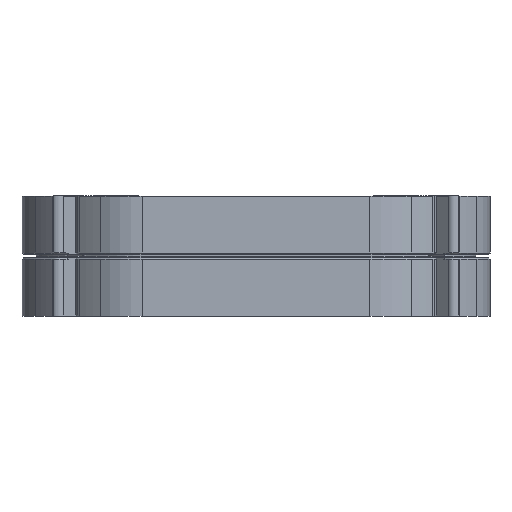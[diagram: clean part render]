
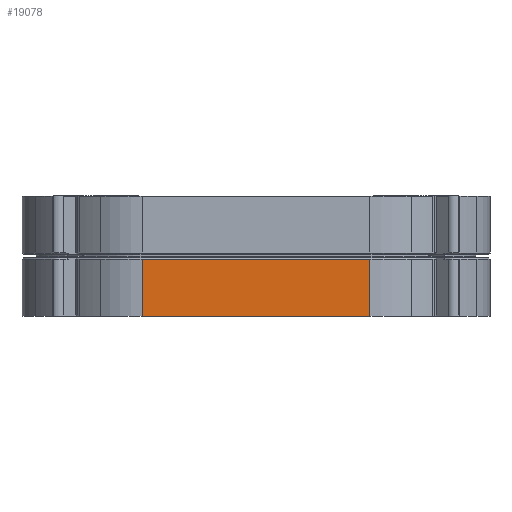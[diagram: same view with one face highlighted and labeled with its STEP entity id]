
A CAD part, left-side view. The second image highlights one B-rep face of the part: STEP entity #19078.
In plain terms, the highlighted planar face has unit normal (-1, 0, 0).
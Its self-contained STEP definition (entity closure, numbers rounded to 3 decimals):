
#1150=LINE('',#34885,#2083);
#1167=LINE('',#34944,#2100);
#1168=LINE('',#34948,#2101);
#1169=LINE('',#34949,#2102);
#2083=VECTOR('',#25589,10.);
#2100=VECTOR('',#25652,10.);
#2101=VECTOR('',#25657,10.);
#2102=VECTOR('',#25658,10.);
#2944=PLANE('',#21042);
#3545=FACE_OUTER_BOUND('',#4632,.T.);
#4632=EDGE_LOOP('',(#14871,#14872,#14873,#14874));
#8014=VERTEX_POINT('',#34877);
#8016=VERTEX_POINT('',#34883);
#8031=VERTEX_POINT('',#34943);
#8032=VERTEX_POINT('',#34947);
#10476=EDGE_CURVE('',#8016,#8014,#1150,.T.);
#10505=EDGE_CURVE('',#8014,#8031,#1167,.T.);
#10507=EDGE_CURVE('',#8032,#8016,#1168,.T.);
#10508=EDGE_CURVE('',#8031,#8032,#1169,.T.);
#14871=ORIENTED_EDGE('',*,*,#10476,.F.);
#14872=ORIENTED_EDGE('',*,*,#10507,.F.);
#14873=ORIENTED_EDGE('',*,*,#10508,.F.);
#14874=ORIENTED_EDGE('',*,*,#10505,.F.);
#19078=ADVANCED_FACE('',(#3545),#2944,.T.);
#21042=AXIS2_PLACEMENT_3D('',#34946,#25655,#25656);
#25589=DIRECTION('',(0.,-1.,0.));
#25652=DIRECTION('',(0.,0.,-1.));
#25655=DIRECTION('center_axis',(-1.,0.,0.));
#25656=DIRECTION('ref_axis',(0.,1.,0.));
#25657=DIRECTION('',(0.,0.,1.));
#25658=DIRECTION('',(0.,1.,0.));
#34877=CARTESIAN_POINT('',(137.5,-47.434,-1.25));
#34883=CARTESIAN_POINT('',(137.5,47.434,-1.25));
#34885=CARTESIAN_POINT('',(137.5,-28.062,-1.25));
#34943=CARTESIAN_POINT('',(137.5,-47.434,-25.));
#34944=CARTESIAN_POINT('',(137.5,-47.434,0.));
#34946=CARTESIAN_POINT('Origin',(137.5,-56.125,0.));
#34947=CARTESIAN_POINT('',(137.5,47.434,-25.));
#34948=CARTESIAN_POINT('',(137.5,47.434,0.));
#34949=CARTESIAN_POINT('',(137.5,-56.125,-25.));
